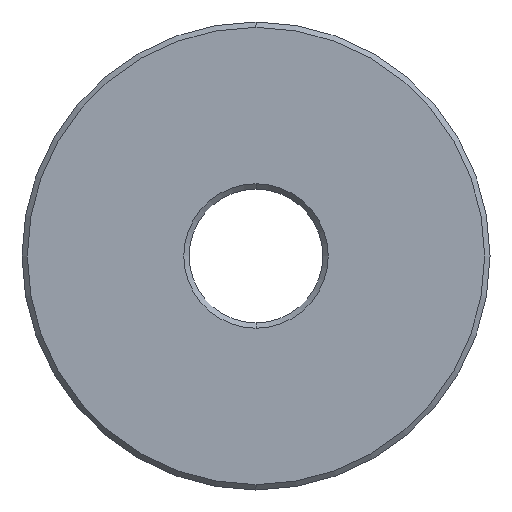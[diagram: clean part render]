
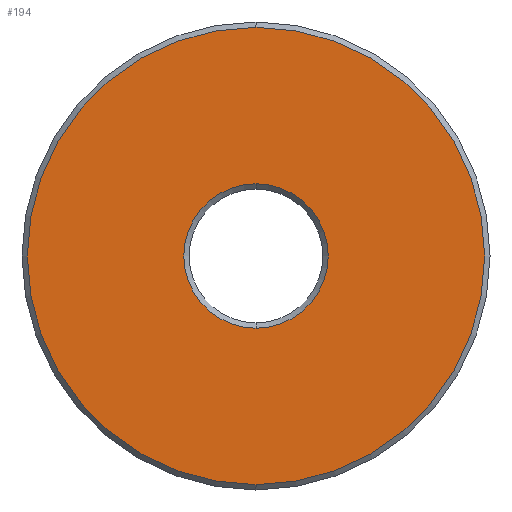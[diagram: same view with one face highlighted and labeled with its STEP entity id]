
A CAD part, left-side view. The second image highlights one B-rep face of the part: STEP entity #194.
In plain terms, the highlighted planar face has unit normal (-1, 0, 0).
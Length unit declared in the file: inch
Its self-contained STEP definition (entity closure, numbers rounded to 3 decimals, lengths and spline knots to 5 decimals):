
#10 = VERTEX_POINT ( 'NONE', #218 ) ;
#143 = CARTESIAN_POINT ( 'NONE',  ( 0., 0., -0.135 ) ) ;
#194 = ADVANCED_FACE ( 'NONE', ( #408, #554 ), #495, .F. ) ;
#213 = VERTEX_POINT ( 'NONE', #143 ) ;
#216 = EDGE_LOOP ( 'NONE', ( #313, #310 ) ) ;
#218 = CARTESIAN_POINT ( 'NONE',  ( 0., 0., 0.4275 ) ) ;
#227 = VERTEX_POINT ( 'NONE', #642 ) ;
#255 = EDGE_LOOP ( 'NONE', ( #320, #316 ) ) ;
#288 = DIRECTION ( 'NONE',  ( 0., 0., -1. ) ) ;
#293 = DIRECTION ( 'NONE',  ( 0., 0., -1. ) ) ;
#295 = VERTEX_POINT ( 'NONE', #557 ) ;
#297 = DIRECTION ( 'NONE',  ( 1., 0., 0. ) ) ;
#300 = DIRECTION ( 'NONE',  ( -1., 0., 0. ) ) ;
#302 = CARTESIAN_POINT ( 'NONE',  ( 0., 0., 0. ) ) ;
#310 = ORIENTED_EDGE ( 'NONE', *, *, #649, .T. ) ;
#313 = ORIENTED_EDGE ( 'NONE', *, *, #613, .T. ) ;
#316 = ORIENTED_EDGE ( 'NONE', *, *, #630, .T. ) ;
#317 = CIRCLE ( 'NONE', #486, 0.135 ) ;
#320 = ORIENTED_EDGE ( 'NONE', *, *, #640, .T. ) ;
#331 = CARTESIAN_POINT ( 'NONE',  ( 0., 0., 0. ) ) ;
#378 = DIRECTION ( 'NONE',  ( 0., 0., -1. ) ) ;
#379 = DIRECTION ( 'NONE',  ( 1., 0., 0. ) ) ;
#385 = CARTESIAN_POINT ( 'NONE',  ( 0., 0., 0. ) ) ;
#408 = FACE_BOUND ( 'NONE', #255, .T. ) ;
#423 = CIRCLE ( 'NONE', #494, 0.135 ) ;
#438 = CIRCLE ( 'NONE', #496, 0.4275 ) ;
#452 = DIRECTION ( 'NONE',  ( 0., 0., -1. ) ) ;
#455 = DIRECTION ( 'NONE',  ( 1., 0., 0. ) ) ;
#459 = CARTESIAN_POINT ( 'NONE',  ( 0., 0., 0. ) ) ;
#466 = DIRECTION ( 'NONE',  ( 0., 0., -1. ) ) ;
#473 = AXIS2_PLACEMENT_3D ( 'NONE', #302, #300, #293 ) ;
#474 = CARTESIAN_POINT ( 'NONE',  ( 0., 0., 0. ) ) ;
#484 = DIRECTION ( 'NONE',  ( -1., 0., 0. ) ) ;
#486 = AXIS2_PLACEMENT_3D ( 'NONE', #385, #379, #378 ) ;
#494 = AXIS2_PLACEMENT_3D ( 'NONE', #459, #455, #452 ) ;
#495 = PLANE ( 'NONE',  #561 ) ;
#496 = AXIS2_PLACEMENT_3D ( 'NONE', #474, #484, #466 ) ;
#554 = FACE_OUTER_BOUND ( 'NONE', #216, .T. ) ;
#557 = CARTESIAN_POINT ( 'NONE',  ( 0., 0., 0.135 ) ) ;
#561 = AXIS2_PLACEMENT_3D ( 'NONE', #331, #297, #288 ) ;
#562 = CIRCLE ( 'NONE', #473, 0.4275 ) ;
#613 = EDGE_CURVE ( 'NONE', #227, #10, #438, .T. ) ;
#630 = EDGE_CURVE ( 'NONE', #213, #295, #423, .T. ) ;
#640 = EDGE_CURVE ( 'NONE', #295, #213, #317, .T. ) ;
#642 = CARTESIAN_POINT ( 'NONE',  ( 0., 0., -0.4275 ) ) ;
#649 = EDGE_CURVE ( 'NONE', #10, #227, #562, .T. ) ;
